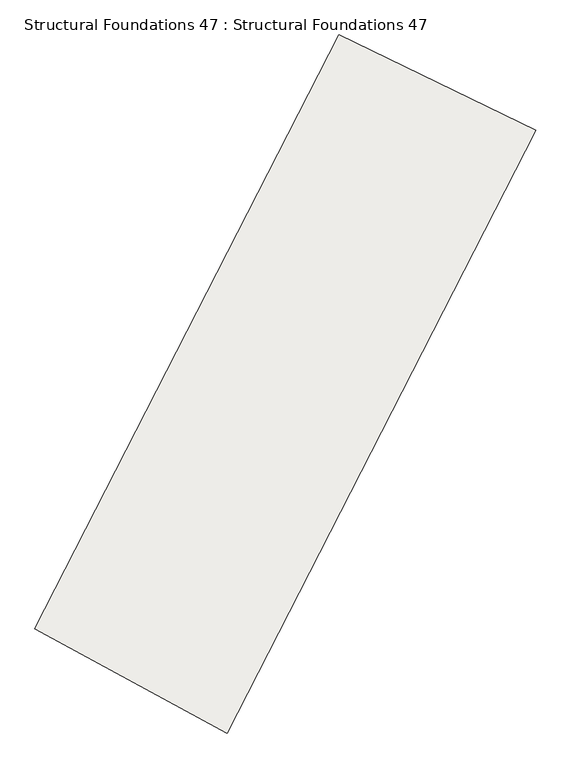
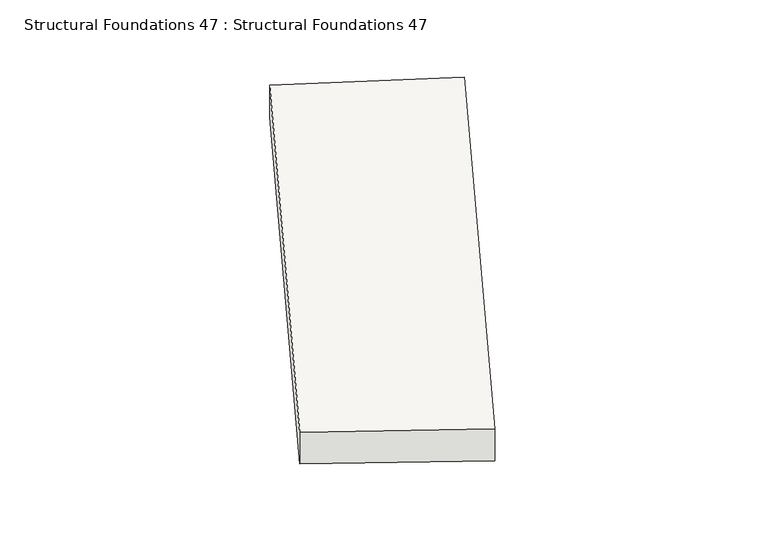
"""IFC4 building model written with IfcOpenShell, lengths in millimetres: slab geometry, Structural Foundations 47 : Structural Foundations 47."""

from ifc_helpers import new_model, si_unit, frame, origin, place, context, project, spatial, source, transform, mapped, element, save
from ifc_brep_helpers import plane_surface, spline_curve, spline_surface, advanced_brep


def structural_foundations_47_structural_foundations_47_1570741d(model_context):
    return source(origin(), model_context, "Body", "AdvancedBrep", [
        advanced_brep(
        [(414613.8106354, 342533.696787, 645840.0), (414613.8106354, 342533.696787, 646540.0), (411535.5021366, 344199.234774, 646540.0), (411535.5021366, 344199.234774, 645840.0), (419552.2113946, 352178.8155508, 645980.0), (416400.6362194, 353701.1735623, 645980.0), (416400.6362194, 353701.1735623, 646680.0), (419552.2113946, 352178.8155508, 646680.0)],
        [
            (0, 1),
            (1, 2),
            (2, 3),
            (3, 0),
            (4, 5),
            (5, 6),
            (6, 7),
            (7, 4),
            (7, 1, spline_curve(3, [(419552.2113946, 352178.8155508, 646680.0), (417980.236334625, 348926.498099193, 646633.333333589), (416333.522727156, 345710.327006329, 646586.666666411), (414613.8106354, 342533.696787, 646540.0)], [4, 4], [0.0, 35.55650443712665])),
            (0, 4, spline_curve(3, [(414613.8106354, 342533.696787, 645840.0), (416333.522727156, 345710.327006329, 645886.666666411), (417980.236334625, 348926.498099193, 645933.333333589), (419552.2113946, 352178.8155508, 645980.0)], [4, 4], [0.0, 35.55650443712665])),
            (6, 2, spline_curve(3, [(416400.6362194, 353701.1735623, 646680.0), (414851.982388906, 350497.135560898, 646633.333333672), (413229.69960393, 347328.707927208, 646586.666666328), (411535.5021366, 344199.234774, 646540.0)], [4, 4], [0.0, 35.29266594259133])),
            (5, 3, spline_curve(3, [(416400.6362194, 353701.1735623, 645980.0), (414851.982388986, 350497.135560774, 645933.333333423), (413229.699603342, 347328.707926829, 645886.666666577), (411535.5021366, 344199.234774, 645840.0)], [4, 4], [0.0, 35.02882778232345])),
        ],
        [
            plane_surface(frame((413074.656386, 343366.4657805, 646190.0), z_axis=(-0.4758679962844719, -0.8795167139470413, 0.0), x_axis=(0.0, 0.0, 1.0))),
            plane_surface(frame((417976.423807, 352939.9945566, 646330.0), z_axis=(0.4349594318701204, 0.9004500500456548, 0.0), x_axis=(0.0, 0.0, 1.0))),
            spline_surface(3, 3, [[(419552.2113946, 352178.8155508, 645980.0), (417980.236334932, 348926.498099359, 645933.333333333), (416333.522726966, 345710.327006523, 645886.666666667), (414613.8106354, 342533.696787, 645840.0)], [(419552.2113946, 352178.8155508, 646213.333333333), (417980.236334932, 348926.498099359, 646166.666666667), (416333.522726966, 345710.327006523, 646120.0), (414613.8106354, 342533.696787, 646073.333333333)], [(419552.2113946, 352178.8155508, 646446.666666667), (417980.236334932, 348926.498099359, 646400.0), (416333.522726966, 345710.327006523, 646353.333333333), (414613.8106354, 342533.696787, 646306.666666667)], [(419552.2113946, 352178.8155508, 646680.0), (417980.236334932, 348926.498099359, 646633.333333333), (416333.522726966, 345710.327006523, 646586.666666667), (414613.8106354, 342533.696787, 646540.0)]], [4, 4], [4, 4], [0.0, 2.2965879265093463], [0.0, 35.55650443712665]),
            spline_surface(3, 3, [[(419552.2113946, 352178.8155508, 646680.0), (417980.236334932, 348926.498099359, 646633.333333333), (416333.522726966, 345710.327006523, 646586.666666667), (414613.8106354, 342533.696787, 646540.0)], [(418501.686336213, 352686.268221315, 646680.0), (416937.485019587, 349450.043919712, 646633.333333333), (415298.915019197, 346249.787313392, 646586.666666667), (413587.707802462, 343088.876115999, 646540.0)], [(417451.161277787, 353193.720891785, 646680.0), (415894.733704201, 349973.58974002, 646633.333333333), (414264.307311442, 346789.247620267, 646586.666666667), (412561.604969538, 343644.055445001, 646540.0)], [(416400.6362194, 353701.1735623, 646680.0), (414851.982388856, 350497.135560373, 646633.333333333), (413229.699603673, 347328.707927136, 646586.666666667), (411535.5021366, 344199.234774, 646540.0)]], [4, 4], [4, 4], [0.0, 11.482939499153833], [0.0, 35.29266594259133]),
            spline_surface(3, 3, [[(416400.6362194, 353701.1735623, 646680.0), (414851.982388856, 350497.135560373, 646633.333333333), (413229.699603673, 347328.707927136, 646586.666666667), (411535.5021366, 344199.234774, 646540.0)], [(416400.6362194, 353701.1735623, 646446.666666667), (414851.982388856, 350497.135560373, 646400.0), (413229.699603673, 347328.707927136, 646353.333333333), (411535.5021366, 344199.234774, 646306.666666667)], [(416400.6362194, 353701.1735623, 646213.333333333), (414851.982388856, 350497.135560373, 646166.666666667), (413229.699603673, 347328.707927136, 646120.0), (411535.5021366, 344199.234774, 646073.333333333)], [(416400.6362194, 353701.1735623, 645980.0), (414851.982388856, 350497.135560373, 645933.333333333), (413229.699603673, 347328.707927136, 645886.666666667), (411535.5021366, 344199.234774, 645840.0)]], [4, 4], [4, 4], [0.0, 2.2965879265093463], [0.0, 35.02882778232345]),
            spline_surface(3, 3, [[(416400.6362194, 353701.1735623, 645980.0), (414851.982388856, 350497.135560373, 645933.333333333), (413229.699603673, 347328.707927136, 645886.666666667), (411535.5021366, 344199.234774, 645840.0)], [(417451.161277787, 353193.720891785, 645980.0), (415894.733704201, 349973.58974002, 645933.333333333), (414264.307311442, 346789.247620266, 645886.666666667), (412561.604969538, 343644.055445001, 645840.0)], [(418501.686336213, 352686.268221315, 645980.0), (416937.485019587, 349450.043919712, 645933.333333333), (415298.915019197, 346249.787313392, 645886.666666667), (413587.707802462, 343088.876115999, 645840.0)], [(419552.2113946, 352178.8155508, 645980.0), (417980.236334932, 348926.498099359, 645933.333333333), (416333.522726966, 345710.327006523, 645886.666666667), (414613.8106354, 342533.696787, 645840.0)]], [4, 4], [4, 4], [0.0, 11.482939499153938], [0.0, 35.29266594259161]),
        ],
        [
            (0, [[1, 2, 3, 4]]),
            (1, [[5, 6, 7, 8]]),
            (2, [[-8, 9, -1, 10]]),
            (3, [[-7, 11, -2, -9]]),
            (4, [[-6, 12, -3, -11]]),
            (5, [[-5, -10, -4, -12]]),
        ],
    ),
    ])


if __name__ == "__main__":
    model = new_model("IFC4")
    model_context = context("Model", 3, world=origin())
    ifc_project = project(units=[si_unit("LENGTHUNIT", "METRE", prefix="MILLI")], contexts=[model_context])
    site = spatial("IfcSite", under=ifc_project)
    building = spatial("IfcBuilding", under=site)
    placement = place(None, origin())
    structural_foundations_47_structural_foundations_47_shape = structural_foundations_47_structural_foundations_47_1570741d(model_context)
    element("IfcSlab", 1, ObjectType="Structural Foundations 47 : Structural Foundations 47", at=placement, inside=building, context=model_context, shape_type="MappedRepresentation", body=[
        mapped(structural_foundations_47_structural_foundations_47_shape, transform((0.0, 0.0, 0.0), x_axis=(1.0, 0.0, 0.0), y_axis=(0.0, 1.0, 0.0), z_axis=(0.0, 0.0, 1.0))),
    ])
    save(model, "model.ifc")
